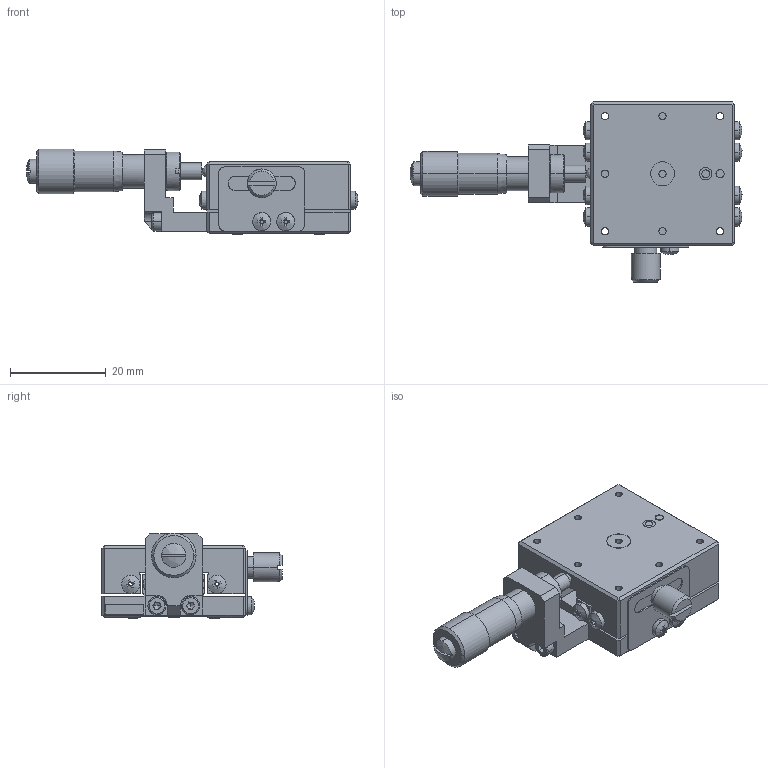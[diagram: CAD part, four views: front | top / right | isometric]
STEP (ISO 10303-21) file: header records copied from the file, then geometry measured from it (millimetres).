
FILE_DESCRIPTION (( 'STEP AP214' ), '1' );
FILE_NAME ('X30-C.STEP', '2022-09-04T02:23:29', ( '' ), ( '' ), 'SwSTEP 2.0', 'SolidWorks 2017', '' );
FILE_SCHEMA (( 'AUTOMOTIVE_DESIGN' ));
Length unit declared in the file: millimetre
Products named in the file (3): X30-C; X30-Cㄗ菁醱ㄘ
Assembly tree (2 placements, depth 2):
  X30-C
    X30-C
    X30-Cㄗ菁醱ㄘ
Bounding box: 69.25 x 37.6 x 17.9 mm (x, y, z)
Surface area: 8989.3 mm2 (no closed solid volume)
Topology: 0 solids, 14 shells, 408 faces, 1203 edges, 809 vertices
Faces by surface type: plane 237, cylinder 134, cone 20, bspline 13, torus 4
Entity records: 16157 total; most frequent: CARTESIAN_POINT 5939, ORIENTED_EDGE 2203, DIRECTION 1810, EDGE_CURVE 1195, VERTEX_POINT 809, AXIS2_PLACEMENT_3D 610, LINE 590, VECTOR 590
